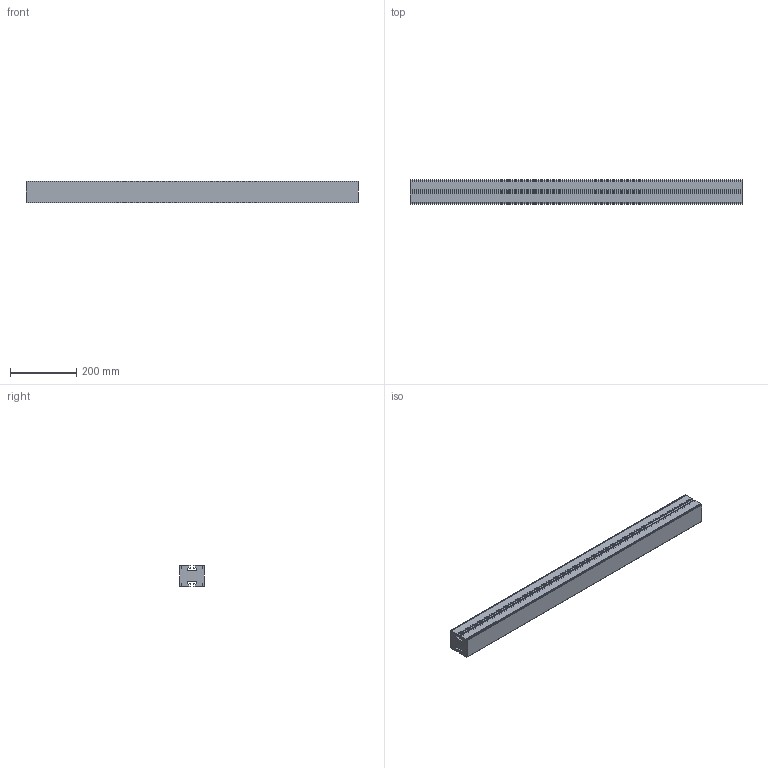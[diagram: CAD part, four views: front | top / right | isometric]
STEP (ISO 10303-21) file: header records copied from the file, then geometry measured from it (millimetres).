
FILE_DESCRIPTION (( 'STEP AP214' ), '1' );
FILE_NAME ('FABER - COUPE FS.STEP', '2017-04-10T08:17:02', ( '' ), ( '' ), 'SwSTEP 2.0', 'SolidWorks 2016', '' );
FILE_SCHEMA (( 'AUTOMOTIVE_DESIGN' ));
Length unit declared in the file: millimetre
Products named in the file (1): FABER - COUPE FS
Bounding box: 1000 x 72.4 x 65 mm (x, y, z)
Volume: 4002556.3 mm3; surface area: 507664.3 mm2
Topology: 1 solids, 1 shells, 96 faces, 282 edges, 188 vertices
Faces by surface type: plane 64, cylinder 32
Entity records: 3224 total; most frequent: CARTESIAN_POINT 567, ORIENTED_EDGE 564, DIRECTION 540, EDGE_CURVE 282, VECTOR 218, LINE 218, VERTEX_POINT 188, AXIS2_PLACEMENT_3D 161
